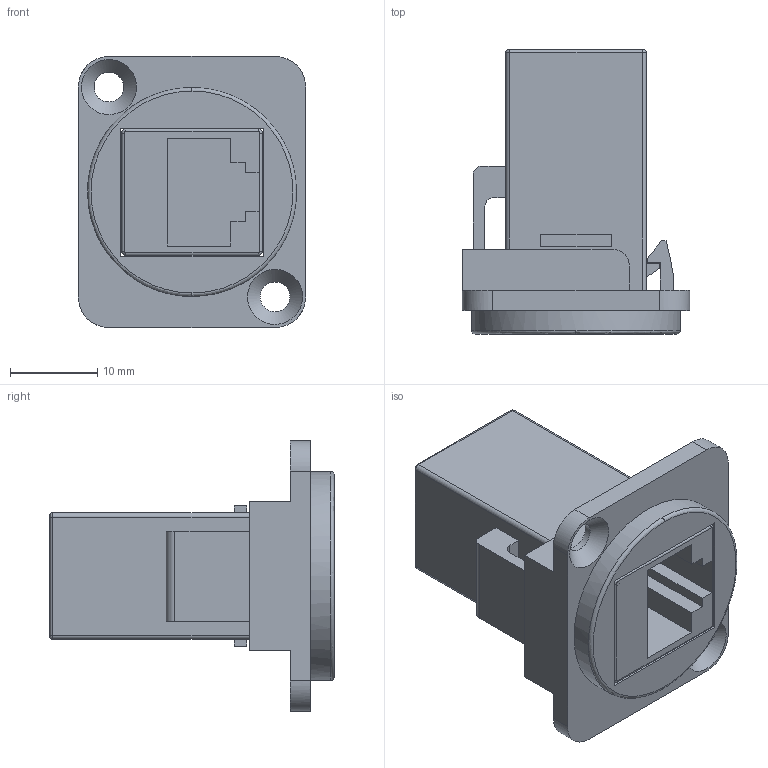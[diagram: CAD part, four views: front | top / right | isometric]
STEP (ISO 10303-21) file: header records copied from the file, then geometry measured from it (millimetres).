
FILE_DESCRIPTION(('FreeCAD Model'),'2;1');
FILE_NAME('Open CASCADE Shape Model','2026-05-18T11:53:45',(''),(''), 'Open CASCADE STEP processor 7.8','FreeCAD','Unknown');
FILE_SCHEMA(('AUTOMOTIVE_DESIGN { 1 0 10303 214 1 1 1 1 }'));
Length unit declared in the file: millimetre
Products named in the file (3): Unnamed; 3013BUSXLRBK; FA-396-8-C6-BK
Assembly tree (2 placements, depth 2):
  Unnamed
    3013BUSXLRBK
    FA-396-8-C6-BK
Bounding box: 26 x 32.5 x 31 mm (x, y, z)
Volume: 7732.7 mm3; surface area: 6391.7 mm2
Topology: 2 solids, 2 shells, 135 faces, 363 edges, 234 vertices
Faces by surface type: plane 57, bspline 56, cylinder 14, revolution 8
Entity records: 5498 total; most frequent: CARTESIAN_POINT 2537, ORIENTED_EDGE 718, DIRECTION 389, EDGE_CURVE 359, VERTEX_POINT 234, B_SPLINE_CURVE_WITH_KNOTS 170, LINE 161, VECTOR 161
